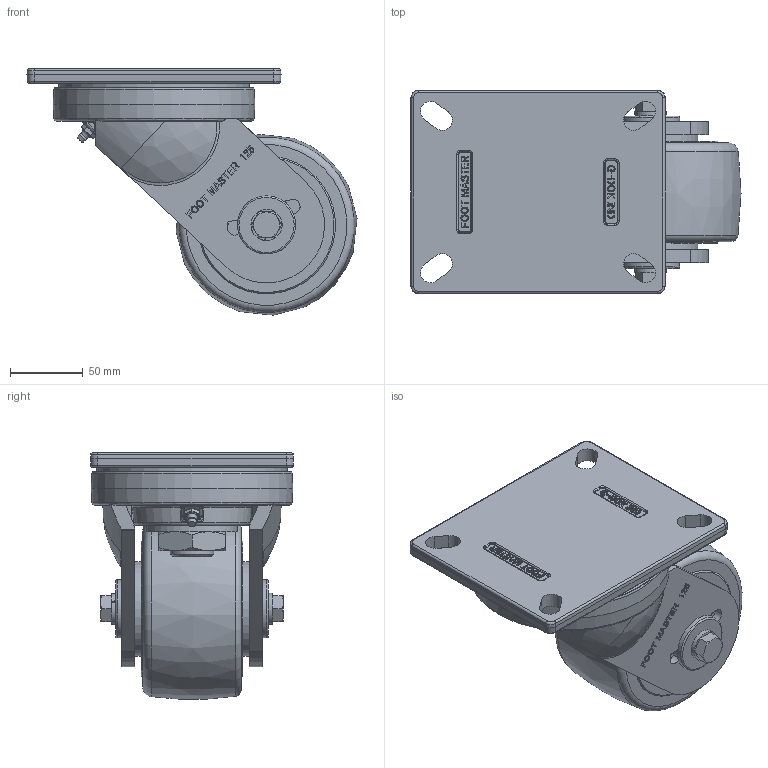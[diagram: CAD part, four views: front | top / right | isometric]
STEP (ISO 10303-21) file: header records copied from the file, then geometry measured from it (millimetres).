
FILE_DESCRIPTION(/* description */ (''),/* implementation_level */ '2;1');
FILE_NAME(/* name */ 'Y:\1.기술연구소\2.연구개발 진행중\133.고하중캐스터 브레이크 타입 변경건_2025.11.03\1.도면\4.홈페이지용 도면\01. 3D\GXT-125 SERIES\GXT-125-STEP\GXT-125-ASF-HUD.stp',/* time_stamp */ '2026-07-22T10:28:04+09:00',/* author */ ('장용하'),/* organization */ (''),/* preprocessor_version */ 'ST-DEVELOPER v18.1',/* originating_system */ 'Autodesk Inventor 2021',/* authorisation */ '');
FILE_SCHEMA (('CONFIG_CONTROL_DESIGN'));
Length unit declared in the file: millimetre
Products named in the file (1): GXT-125-ASF-HUD
Bounding box: 227.33 x 140 x 169.66 mm (x, y, z)
Volume: 1792954.6 mm3; surface area: 163508.4 mm2
Topology: 1 solids, 1 shells, 981 faces, 2655 edges, 1744 vertices
Faces by surface type: plane 481, bspline 355, cylinder 94, cone 29, torus 18, sphere 4
Full cylindrical faces by diameter (mm): 12 x2, 21.5 x2, 30 x1, 40 x2, 62.5 x1, 65 x2, 131.086 x1
Entity records: 32181 total; most frequent: CARTESIAN_POINT 9713, ORIENTED_EDGE 5306, DIRECTION 3502, EDGE_CURVE 2653, VERTEX_POINT 1744, LINE 1536, VECTOR 1536, EDGE_LOOP 1071
